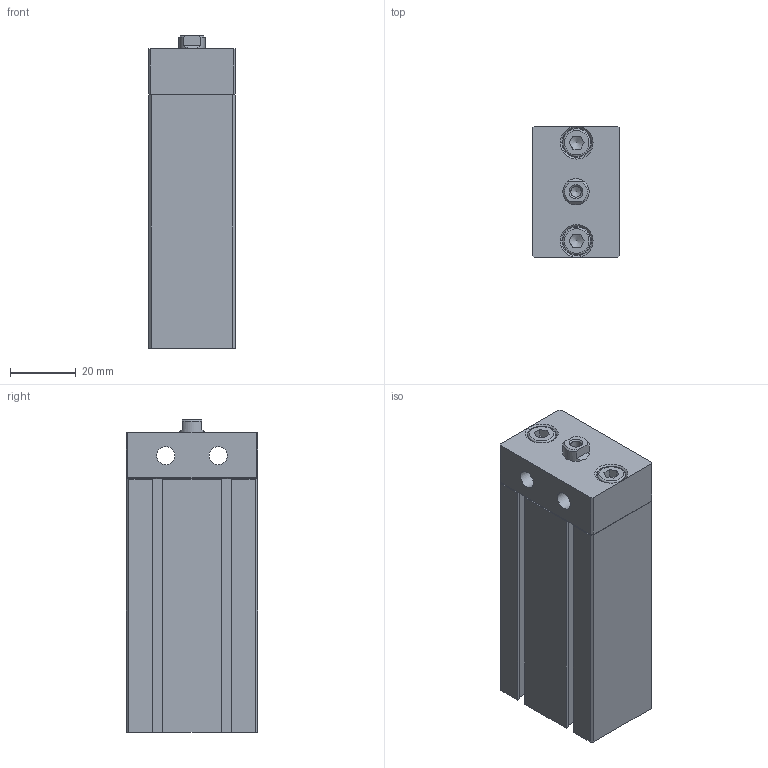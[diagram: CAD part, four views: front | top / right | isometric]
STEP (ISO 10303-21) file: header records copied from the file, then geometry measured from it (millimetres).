
FILE_DESCRIPTION((''),'2;1');
FILE_NAME('I:\3D電子目錄\氣缸\ND\ND\ND20\ND20x50.stp','2007-07-23T20:10:59',('Administrator'),(''),'Autodesk Inventor 11','Autodesk Inventor 11','');
FILE_SCHEMA(('AUTOMOTIVE_DESIGN { 1 0 10303 214 1 1 1 1 }'));
Length unit declared in the file: millimetre
Products named in the file (4): ND20; R 形環 22; ISO 4762 M5 x 10
Assembly tree (4 placements, depth 2):
  ND20
    ND20
    R 形環 22
    ISO 4762 M5 x 10  x2
Bounding box: 26.4 x 40.1 x 95.5 mm (x, y, z)
Volume: 86692.6 mm3; surface area: 22218.7 mm2
Topology: 5 solids, 5 shells, 160 faces, 400 edges, 257 vertices
Faces by surface type: plane 101, cylinder 26, bspline 16, cone 14, torus 3
Full cylindrical faces by diameter (mm): 1.5 x4, 5 x2, 5.5 x2, 8.5 x2, 9 x2, 13 x1, 21 x1
Entity records: 4401 total; most frequent: CARTESIAN_POINT 948, DIRECTION 676, ORIENTED_EDGE 654, EDGE_CURVE 327, VECTOR 234, LINE 234, VERTEX_POINT 231, AXIS2_PLACEMENT_3D 221
